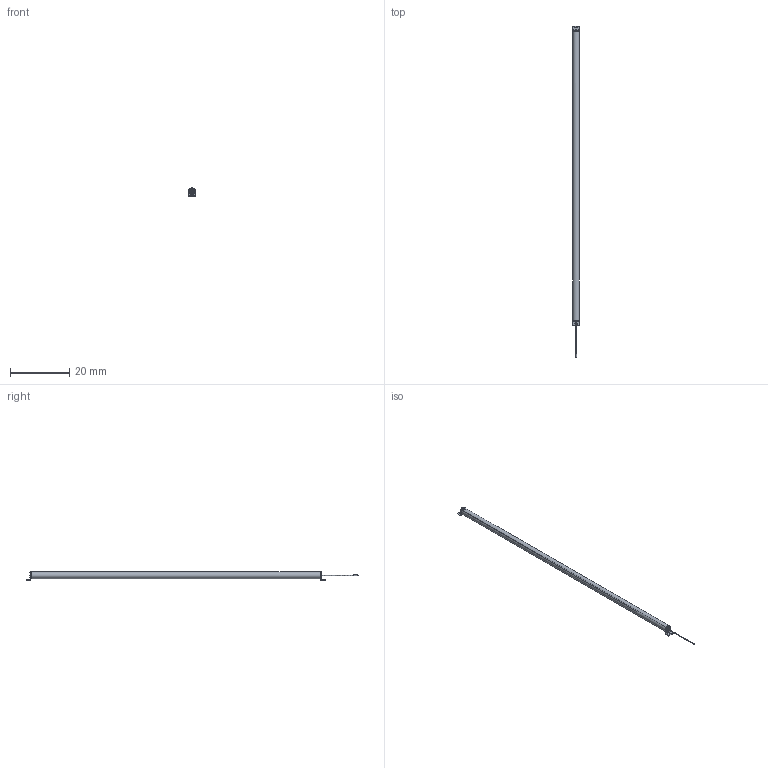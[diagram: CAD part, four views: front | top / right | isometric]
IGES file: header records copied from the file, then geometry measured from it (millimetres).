
Start section:  Autodesk DirectConnect version 7.0.27.0 ---- IGES version 5.3
Global section: file name: C:\ACADFILES\SS_PYLONS\CUSTOMER_FILES\SS-96-PYLON_3D_SMB_PT.iges; native system: Autodesk DirectConnect 7.0.27.0; preprocessor: 7.0.27.0; author: ENGINEERMAIN; organization: Unknown; date: 20150810.130808; units: millimetre
Bounding box: 2.26 x 112.01 x 2.75 mm (x, y, z)
Surface area: 2785.6 mm2 (no closed solid volume)
Topology: 0 solids, 0 shells, 772 faces, 3944 edges, 3944 vertices
Faces by surface type: bspline 772
